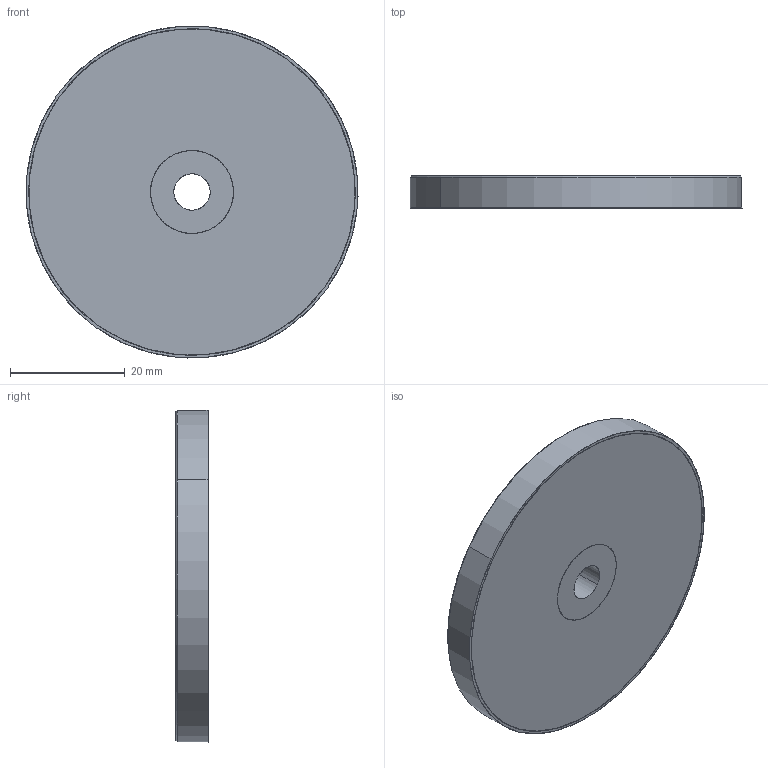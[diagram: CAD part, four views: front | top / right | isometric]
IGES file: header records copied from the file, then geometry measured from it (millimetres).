
Start section: SolidWorks IGES file using analytic representation for surfaces
Global section: file name: C:\Zettlex Data\Mechanical Drawings\1615\58mm Plain Rotor 6.35mm Rev 1-0.IGS; native system: SolidWorks 2015; preprocessor: SolidWorks 2015; author: Nigel; date: 150907.174120; units: millimetre
Bounding box: 57.98 x 5.6 x 57.98 mm (x, y, z)
Surface area: 6376.9 mm2 (no closed solid volume)
Topology: 0 solids, 0 shells, 663 faces, 7695 edges, 7695 vertices
Faces by surface type: bspline 649, revolution 14
